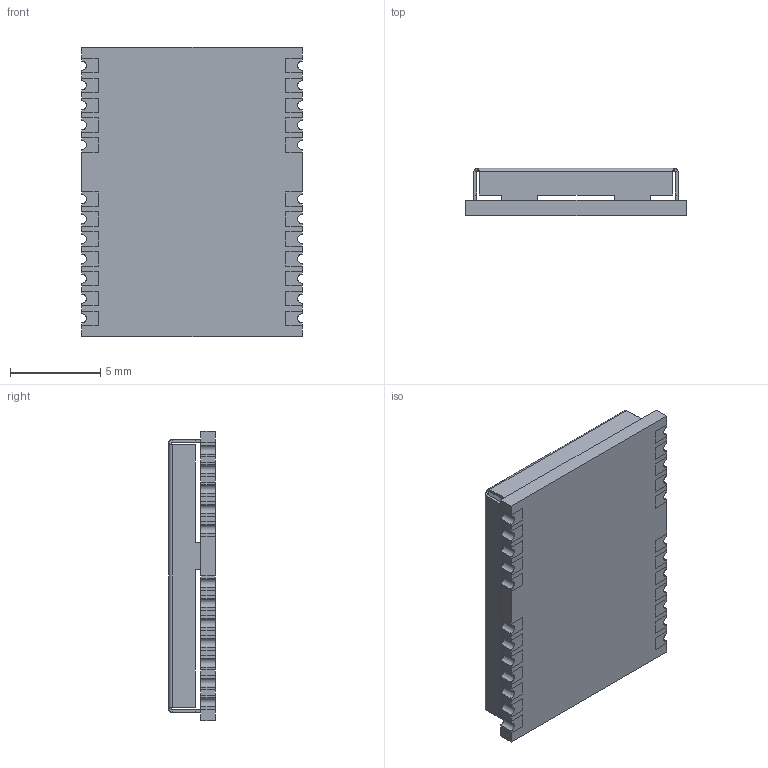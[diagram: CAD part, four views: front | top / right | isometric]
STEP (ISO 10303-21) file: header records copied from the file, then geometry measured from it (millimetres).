
FILE_DESCRIPTION (( 'STEP AP214' ), '1' );
FILE_NAME ('NEO-6M-0-001.STEP', '2024-07-13T04:17:52', ( '' ), ( '' ), 'SwSTEP 2.0', 'SolidWorks 2021', '' );
FILE_SCHEMA (( 'AUTOMOTIVE_DESIGN' ));
Length unit declared in the file: millimetre
Products named in the file (1): NEO-6M-0-001
Bounding box: 12.2 x 2.6 x 16 mm (x, y, z)
Volume: 193.8 mm3; surface area: 1026 mm2
Topology: 26 solids, 26 shells, 364 faces, 904 edges, 592 vertices
Faces by surface type: plane 324, cylinder 32, bspline 8
Entity records: 11047 total; most frequent: CARTESIAN_POINT 2157, ORIENTED_EDGE 1808, DIRECTION 1634, EDGE_CURVE 904, VECTOR 824, LINE 824, VERTEX_POINT 592, AXIS2_PLACEMENT_3D 405
